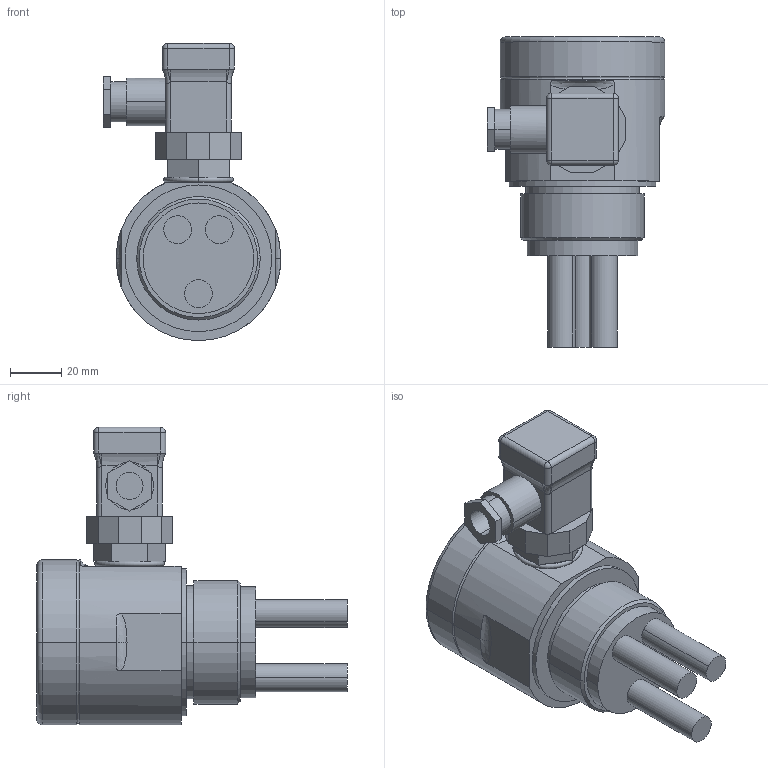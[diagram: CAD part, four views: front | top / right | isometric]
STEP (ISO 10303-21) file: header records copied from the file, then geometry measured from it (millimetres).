
FILE_DESCRIPTION((''),'2;1');
FILE_NAME('CAT_I_700-3','2024-12-06T16:43:14',('LGZ'),(''),'CREO PARAMETRIC BY PTC INC, 2023072','CREO PARAMETRIC BY PTC INC, 2023072','');
FILE_SCHEMA(('AUTOMOTIVE_DESIGN { 1 0 10303 214 1 1 1 1 }'));
Length unit declared in the file: millimetre
Products named in the file (1): CAT_I_700-3
Bounding box: 69 x 120.5 x 115.5 mm (x, y, z)
Volume: 273674.2 mm3; surface area: 39181 mm2
Topology: 1 solids, 5 shells, 151 faces, 349 edges, 214 vertices
Faces by surface type: plane 70, cylinder 48, bspline 17, torus 6, cone 6, sphere 4
Entity records: 5927 total; most frequent: CARTESIAN_POINT 2359, DIRECTION 726, ORIENTED_EDGE 682, EDGE_CURVE 345, AXIS2_PLACEMENT_3D 277, VERTEX_POINT 214, VECTOR 172, LINE 172
